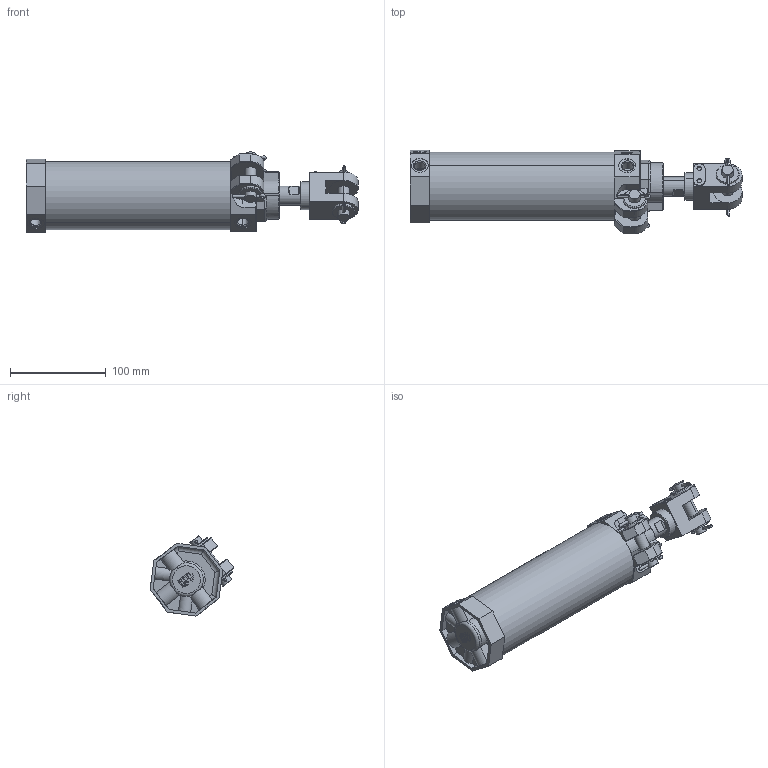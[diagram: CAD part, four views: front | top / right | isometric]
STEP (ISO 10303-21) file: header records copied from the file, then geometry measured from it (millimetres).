
FILE_DESCRIPTION(('CATIA V5 STEP Exchange'),'2;1');
FILE_NAME('D:\stp file for catalog\PRCCA\prcca 63\PRCCA 63-20-150.stp','2015-05-05T07:01:23+00:00',('none'),('none'),'Version 5-6 Release 2012','CATIA V5 STEP AP203','none');
FILE_SCHEMA(('CONFIG_CONTROL_DESIGN'));
Length unit declared in the file: millimetre
Products named in the file (3): pncca 63-20-150; Product1.1; PNCCA 50-20-50-02
Assembly tree (14 placements, depth 3):
  pncca 63-20-150
    Product1.1
      #66
      #7309
      #7478
      #14308  x2
      #14830
      #15156
      #15388
    PNCCA 50-20-50-02
      #15626
      #14830
      #14308  x2
Bounding box: 346.2 x 87.47 x 83.54 mm (x, y, z)
Volume: 568885.4 mm3; surface area: 183565.3 mm2
Topology: 12 solids, 12 shells, 636 faces, 1569 edges, 1005 vertices
Faces by surface type: cylinder 263, plane 256, cone 57, revolution 32, torus 18, bspline 9, extrusion 1
Entity records: 17914 total; most frequent: CARTESIAN_POINT 4489, ORIENTED_EDGE 2922, DIRECTION 2203, EDGE_CURVE 1461, AXIS2_PLACEMENT_3D 973, VERTEX_POINT 933, VECTOR 778, LINE 777
